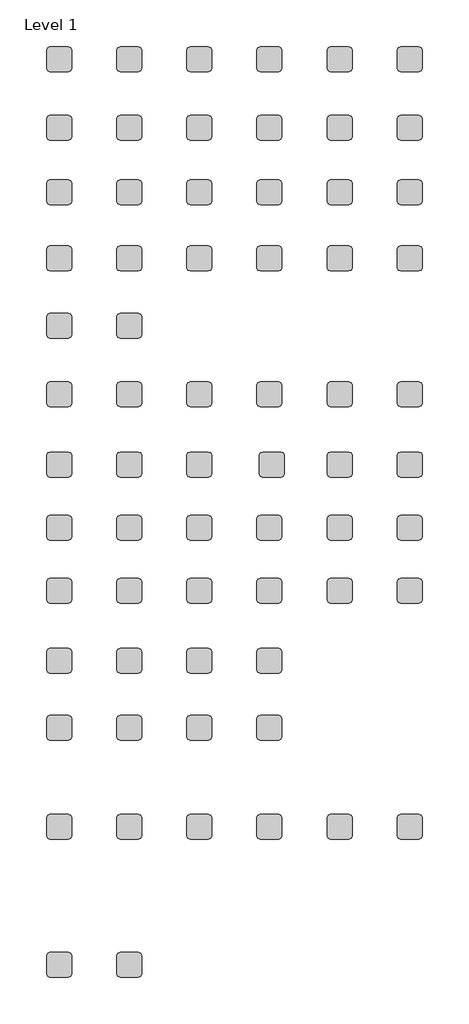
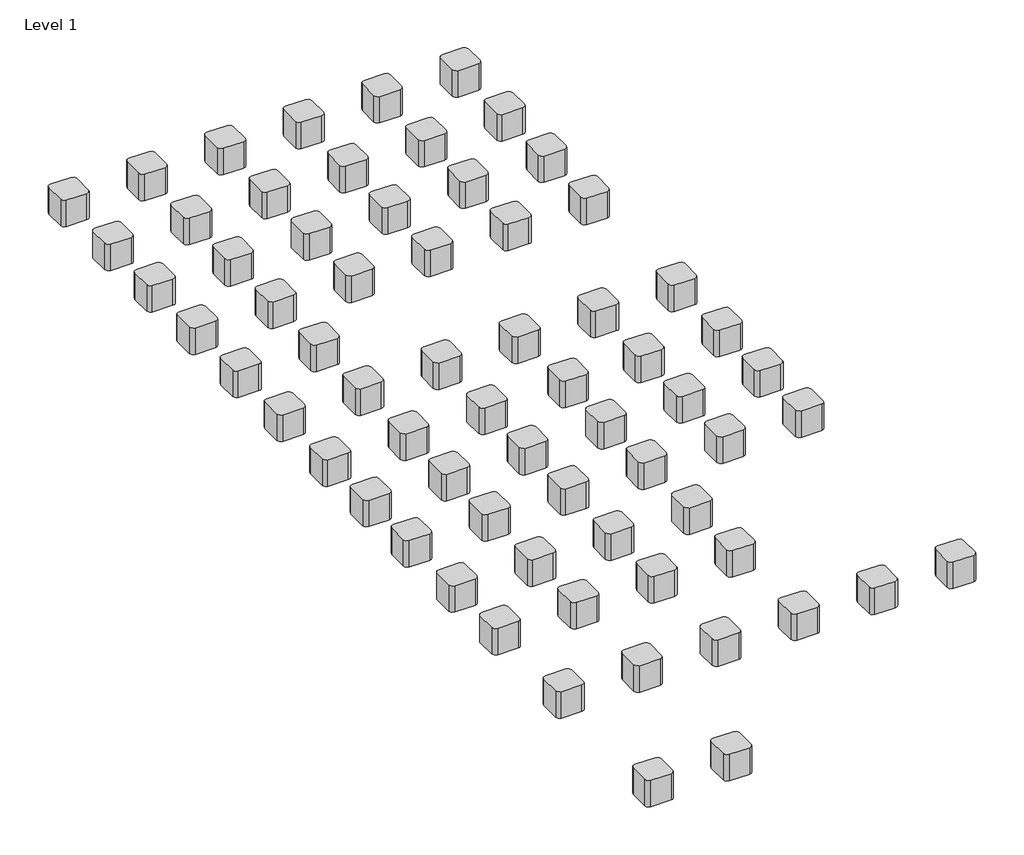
# One storey: 66 proxies.
"""IFC4 building model written with IfcOpenShell, lengths in millimetres."""

from ifc_helpers import new_model, si_unit, origin, place, context, project, spatial, transform, mapped, element, save
from components import material_cube_material_cube_d003602f

model = new_model("IFC4")

# Units and contexts
model_context = context("Model", 3, world=origin())
ifc_project = project(units=[si_unit("LENGTHUNIT", "METRE", prefix="MILLI")], contexts=[model_context])

# Site, building, storey
site = spatial("IfcSite", under=ifc_project)
building = spatial("IfcBuilding", under=site)
storey = spatial("IfcBuildingStorey", under=building, Name="Level 1", Elevation=0.0)

# Proxies
placement = place(None, origin())
material_cube_material_cube_shape = material_cube_material_cube_d003602f(model_context)
element("IfcBuildingElementProxy", 1, Name="Material Cube : Material Cube", ObjectType="Material Cube : Material Cube", at=placement, inside=storey, context=model_context, shape_type="MappedRepresentation", body=[
    mapped(material_cube_material_cube_shape, transform((-13627.1706411, 7005.4918403, 0.0), x_axis=(1.0, 0.0, 0.0), y_axis=(0.0, 1.0, 0.0), z_axis=(0.0, 0.0, 1.0))),
])
element("IfcBuildingElementProxy", 2, Name="Material Cube : Material Cube", ObjectType="Material Cube : Material Cube", at=placement, inside=storey, context=model_context, shape_type="MappedRepresentation", body=[
    mapped(material_cube_material_cube_shape, transform((-12558.7416718, 7005.4918403, 0.0), x_axis=(1.0, 0.0, 0.0), y_axis=(0.0, 1.0, 0.0), z_axis=(0.0, 0.0, 1.0))),
])
element("IfcBuildingElementProxy", 3, Name="Material Cube : Material Cube", ObjectType="Material Cube : Material Cube", at=placement, inside=storey, context=model_context, shape_type="MappedRepresentation", body=[
    mapped(material_cube_material_cube_shape, transform((-11490.3127025, 7005.4918403, 0.0), x_axis=(1.0, 0.0, 0.0), y_axis=(0.0, 1.0, 0.0), z_axis=(0.0, 0.0, 1.0))),
])
element("IfcBuildingElementProxy", 4, Name="Material Cube : Material Cube", ObjectType="Material Cube : Material Cube", at=placement, inside=storey, context=model_context, shape_type="MappedRepresentation", body=[
    mapped(material_cube_material_cube_shape, transform((-10421.8837331, 7005.4918403, 0.0), x_axis=(1.0, 0.0, 0.0), y_axis=(0.0, 1.0, 0.0), z_axis=(0.0, 0.0, 1.0))),
])
element("IfcBuildingElementProxy", 5, Name="Material Cube : Material Cube", ObjectType="Material Cube : Material Cube", at=placement, inside=storey, context=model_context, shape_type="MappedRepresentation", body=[
    mapped(material_cube_material_cube_shape, transform((-9353.4547638, 7005.4918403, 0.0), x_axis=(1.0, 0.0, 0.0), y_axis=(0.0, 1.0, 0.0), z_axis=(0.0, 0.0, 1.0))),
])
element("IfcBuildingElementProxy", 6, Name="Material Cube : Material Cube", ObjectType="Material Cube : Material Cube", at=placement, inside=storey, context=model_context, shape_type="MappedRepresentation", body=[
    mapped(material_cube_material_cube_shape, transform((-8285.0257944, 7005.4918403, 0.0), x_axis=(1.0, 0.0, 0.0), y_axis=(0.0, 1.0, 0.0), z_axis=(0.0, 0.0, 1.0))),
])
element("IfcBuildingElementProxy", 7, Name="Material Cube : Material Cube", ObjectType="Material Cube : Material Cube", at=placement, inside=storey, context=model_context, shape_type="MappedRepresentation", body=[
    mapped(material_cube_material_cube_shape, transform((-13627.1706411, 4973.4918403, 0.0), x_axis=(1.0, 0.0, 0.0), y_axis=(0.0, 1.0, 0.0), z_axis=(0.0, 0.0, 1.0))),
])
element("IfcBuildingElementProxy", 8, Name="Material Cube : Material Cube", ObjectType="Material Cube : Material Cube", at=placement, inside=storey, context=model_context, shape_type="MappedRepresentation", body=[
    mapped(material_cube_material_cube_shape, transform((-12558.7416718, 4973.4918403, 0.0), x_axis=(1.0, 0.0, 0.0), y_axis=(0.0, 1.0, 0.0), z_axis=(0.0, 0.0, 1.0))),
])
element("IfcBuildingElementProxy", 9, Name="Material Cube : Material Cube", ObjectType="Material Cube : Material Cube", at=placement, inside=storey, context=model_context, shape_type="MappedRepresentation", body=[
    mapped(material_cube_material_cube_shape, transform((-11490.3127025, 4973.4918403, 0.0), x_axis=(1.0, 0.0, 0.0), y_axis=(0.0, 1.0, 0.0), z_axis=(0.0, 0.0, 1.0))),
])
element("IfcBuildingElementProxy", 10, Name="Material Cube : Material Cube", ObjectType="Material Cube : Material Cube", at=placement, inside=storey, context=model_context, shape_type="MappedRepresentation", body=[
    mapped(material_cube_material_cube_shape, transform((-10421.8837331, 4973.4918403, 0.0), x_axis=(1.0, 0.0, 0.0), y_axis=(0.0, 1.0, 0.0), z_axis=(0.0, 0.0, 1.0))),
])
element("IfcBuildingElementProxy", 11, Name="Material Cube : Material Cube", ObjectType="Material Cube : Material Cube", at=placement, inside=storey, context=model_context, shape_type="MappedRepresentation", body=[
    mapped(material_cube_material_cube_shape, transform((-9353.4547638, 4973.4918403, 0.0), x_axis=(1.0, 0.0, 0.0), y_axis=(0.0, 1.0, 0.0), z_axis=(0.0, 0.0, 1.0))),
])
element("IfcBuildingElementProxy", 12, Name="Material Cube : Material Cube", ObjectType="Material Cube : Material Cube", at=placement, inside=storey, context=model_context, shape_type="MappedRepresentation", body=[
    mapped(material_cube_material_cube_shape, transform((-8285.0257944, 4973.4918403, 0.0), x_axis=(1.0, 0.0, 0.0), y_axis=(0.0, 1.0, 0.0), z_axis=(0.0, 0.0, 1.0))),
])
element("IfcBuildingElementProxy", 13, Name="Material Cube : Material Cube", ObjectType="Material Cube : Material Cube", at=placement, inside=storey, context=model_context, shape_type="MappedRepresentation", body=[
    mapped(material_cube_material_cube_shape, transform((-13627.1706411, 1900.0918403, 0.0), x_axis=(1.0, 0.0, 0.0), y_axis=(0.0, 1.0, 0.0), z_axis=(0.0, 0.0, 1.0))),
])
element("IfcBuildingElementProxy", 14, Name="Material Cube : Material Cube", ObjectType="Material Cube : Material Cube", at=placement, inside=storey, context=model_context, shape_type="MappedRepresentation", body=[
    mapped(material_cube_material_cube_shape, transform((-12558.7416718, 1900.0918403, 0.0), x_axis=(1.0, 0.0, 0.0), y_axis=(0.0, 1.0, 0.0), z_axis=(0.0, 0.0, 1.0))),
])
element("IfcBuildingElementProxy", 15, Name="Material Cube : Material Cube", ObjectType="Material Cube : Material Cube", at=placement, inside=storey, context=model_context, shape_type="MappedRepresentation", body=[
    mapped(material_cube_material_cube_shape, transform((-11490.3127025, 1900.0918403, 0.0), x_axis=(1.0, 0.0, 0.0), y_axis=(0.0, 1.0, 0.0), z_axis=(0.0, 0.0, 1.0))),
])
element("IfcBuildingElementProxy", 16, Name="Material Cube : Material Cube", ObjectType="Material Cube : Material Cube", at=placement, inside=storey, context=model_context, shape_type="MappedRepresentation", body=[
    mapped(material_cube_material_cube_shape, transform((-10421.8837331, 1900.0918403, 0.0), x_axis=(1.0, 0.0, 0.0), y_axis=(0.0, 1.0, 0.0), z_axis=(0.0, 0.0, 1.0))),
])
element("IfcBuildingElementProxy", 17, Name="Material Cube : Material Cube", ObjectType="Material Cube : Material Cube", at=placement, inside=storey, context=model_context, shape_type="MappedRepresentation", body=[
    mapped(material_cube_material_cube_shape, transform((-9353.4547638, 1900.0918403, 0.0), x_axis=(1.0, 0.0, 0.0), y_axis=(0.0, 1.0, 0.0), z_axis=(0.0, 0.0, 1.0))),
])
element("IfcBuildingElementProxy", 18, Name="Material Cube : Material Cube", ObjectType="Material Cube : Material Cube", at=placement, inside=storey, context=model_context, shape_type="MappedRepresentation", body=[
    mapped(material_cube_material_cube_shape, transform((-8285.0257944, 1900.0918403, 0.0), x_axis=(1.0, 0.0, 0.0), y_axis=(0.0, 1.0, 0.0), z_axis=(0.0, 0.0, 1.0))),
])
element("IfcBuildingElementProxy", 19, Name="Material Cube : Material Cube", ObjectType="Material Cube : Material Cube", at=placement, inside=storey, context=model_context, shape_type="MappedRepresentation", body=[
    mapped(material_cube_material_cube_shape, transform((-13627.1706411, -131.9081597, 0.0), x_axis=(1.0, 0.0, 0.0), y_axis=(0.0, 1.0, 0.0), z_axis=(0.0, 0.0, 1.0))),
])
element("IfcBuildingElementProxy", 20, Name="Material Cube : Material Cube", ObjectType="Material Cube : Material Cube", at=placement, inside=storey, context=model_context, shape_type="MappedRepresentation", body=[
    mapped(material_cube_material_cube_shape, transform((-11490.3127025, -131.9081597, 0.0), x_axis=(1.0, 0.0, 0.0), y_axis=(0.0, 1.0, 0.0), z_axis=(0.0, 0.0, 1.0))),
])
element("IfcBuildingElementProxy", 21, Name="Material Cube : Material Cube", ObjectType="Material Cube : Material Cube", at=placement, inside=storey, context=model_context, shape_type="MappedRepresentation", body=[
    mapped(material_cube_material_cube_shape, transform((-12558.7416718, -131.9081597, 0.0), x_axis=(1.0, 0.0, 0.0), y_axis=(0.0, 1.0, 0.0), z_axis=(0.0, 0.0, 1.0))),
])
element("IfcBuildingElementProxy", 22, Name="Material Cube : Material Cube", ObjectType="Material Cube : Material Cube", at=placement, inside=storey, context=model_context, shape_type="MappedRepresentation", body=[
    mapped(material_cube_material_cube_shape, transform((-10421.8837331, -131.9081597, 0.0), x_axis=(1.0, 0.0, 0.0), y_axis=(0.0, 1.0, 0.0), z_axis=(0.0, 0.0, 1.0))),
])
element("IfcBuildingElementProxy", 23, Name="Material Cube : Material Cube", ObjectType="Material Cube : Material Cube", at=placement, inside=storey, context=model_context, shape_type="MappedRepresentation", body=[
    mapped(material_cube_material_cube_shape, transform((-9353.4547638, -131.9081597, 0.0), x_axis=(1.0, 0.0, 0.0), y_axis=(0.0, 1.0, 0.0), z_axis=(0.0, 0.0, 1.0))),
])
element("IfcBuildingElementProxy", 24, Name="Material Cube : Material Cube", ObjectType="Material Cube : Material Cube", at=placement, inside=storey, context=model_context, shape_type="MappedRepresentation", body=[
    mapped(material_cube_material_cube_shape, transform((-8285.0257944, -131.9081597, 0.0), x_axis=(1.0, 0.0, 0.0), y_axis=(0.0, 1.0, 0.0), z_axis=(0.0, 0.0, 1.0))),
])
element("IfcBuildingElementProxy", 25, Name="Material Cube : Material Cube", ObjectType="Material Cube : Material Cube", at=placement, inside=storey, context=model_context, shape_type="MappedRepresentation", body=[
    mapped(material_cube_material_cube_shape, transform((-13627.1706411, 2941.4918403, 0.0), x_axis=(1.0, 0.0, 0.0), y_axis=(0.0, 1.0, 0.0), z_axis=(0.0, 0.0, 1.0))),
])
element("IfcBuildingElementProxy", 26, Name="Material Cube : Material Cube", ObjectType="Material Cube : Material Cube", at=placement, inside=storey, context=model_context, shape_type="MappedRepresentation", body=[
    mapped(material_cube_material_cube_shape, transform((-12558.7416718, 2941.4918403, 0.0), x_axis=(1.0, 0.0, 0.0), y_axis=(0.0, 1.0, 0.0), z_axis=(0.0, 0.0, 1.0))),
])
element("IfcBuildingElementProxy", 27, Name="Material Cube : Material Cube", ObjectType="Material Cube : Material Cube", at=placement, inside=storey, context=model_context, shape_type="MappedRepresentation", body=[
    mapped(material_cube_material_cube_shape, transform((-13627.1706411, -2163.9081597, 0.0), x_axis=(1.0, 0.0, 0.0), y_axis=(0.0, 1.0, 0.0), z_axis=(0.0, 0.0, 1.0))),
])
element("IfcBuildingElementProxy", 28, Name="Material Cube : Material Cube", ObjectType="Material Cube : Material Cube", at=placement, inside=storey, context=model_context, shape_type="MappedRepresentation", body=[
    mapped(material_cube_material_cube_shape, transform((-12558.7416718, -2163.9081597, 0.0), x_axis=(1.0, 0.0, 0.0), y_axis=(0.0, 1.0, 0.0), z_axis=(0.0, 0.0, 1.0))),
])
element("IfcBuildingElementProxy", 29, Name="Material Cube : Material Cube", ObjectType="Material Cube : Material Cube", at=placement, inside=storey, context=model_context, shape_type="MappedRepresentation", body=[
    mapped(material_cube_material_cube_shape, transform((-11490.3127025, -2163.9081597, 0.0), x_axis=(1.0, 0.0, 0.0), y_axis=(0.0, 1.0, 0.0), z_axis=(0.0, 0.0, 1.0))),
])
element("IfcBuildingElementProxy", 30, Name="Material Cube : Material Cube", ObjectType="Material Cube : Material Cube", at=placement, inside=storey, context=model_context, shape_type="MappedRepresentation", body=[
    mapped(material_cube_material_cube_shape, transform((-10421.8837331, -2163.9081597, 0.0), x_axis=(1.0, 0.0, 0.0), y_axis=(0.0, 1.0, 0.0), z_axis=(0.0, 0.0, 1.0))),
])
element("IfcBuildingElementProxy", 31, Name="Material Cube : Material Cube", ObjectType="Material Cube : Material Cube", at=placement, inside=storey, context=model_context, shape_type="MappedRepresentation", body=[
    mapped(material_cube_material_cube_shape, transform((-13627.1706411, -3179.9081597, 0.0), x_axis=(1.0, 0.0, 0.0), y_axis=(0.0, 1.0, 0.0), z_axis=(0.0, 0.0, 1.0))),
])
element("IfcBuildingElementProxy", 32, Name="Material Cube : Material Cube", ObjectType="Material Cube : Material Cube", at=placement, inside=storey, context=model_context, shape_type="MappedRepresentation", body=[
    mapped(material_cube_material_cube_shape, transform((-12558.7416718, -3179.9081597, 0.0), x_axis=(1.0, 0.0, 0.0), y_axis=(0.0, 1.0, 0.0), z_axis=(0.0, 0.0, 1.0))),
])
element("IfcBuildingElementProxy", 33, Name="Material Cube : Material Cube", ObjectType="Material Cube : Material Cube", at=placement, inside=storey, context=model_context, shape_type="MappedRepresentation", body=[
    mapped(material_cube_material_cube_shape, transform((-11490.3127025, -3179.9081597, 0.0), x_axis=(1.0, 0.0, 0.0), y_axis=(0.0, 1.0, 0.0), z_axis=(0.0, 0.0, 1.0))),
])
element("IfcBuildingElementProxy", 34, Name="Material Cube : Material Cube", ObjectType="Material Cube : Material Cube", at=placement, inside=storey, context=model_context, shape_type="MappedRepresentation", body=[
    mapped(material_cube_material_cube_shape, transform((-10421.8837331, -3179.9081597, 0.0), x_axis=(1.0, 0.0, 0.0), y_axis=(0.0, 1.0, 0.0), z_axis=(0.0, 0.0, 1.0))),
])
element("IfcBuildingElementProxy", 35, Name="Material Cube : Material Cube", ObjectType="Material Cube : Material Cube", at=placement, inside=storey, context=model_context, shape_type="MappedRepresentation", body=[
    mapped(material_cube_material_cube_shape, transform((-13627.1706411, 828.3582102, 0.0), x_axis=(1.0, 0.0, 0.0), y_axis=(0.0, 1.0, 0.0), z_axis=(0.0, 0.0, 1.0))),
])
element("IfcBuildingElementProxy", 36, Name="Material Cube : Material Cube", ObjectType="Material Cube : Material Cube", at=placement, inside=storey, context=model_context, shape_type="MappedRepresentation", body=[
    mapped(material_cube_material_cube_shape, transform((-12558.7416718, 828.3582102, 0.0), x_axis=(1.0, 0.0, 0.0), y_axis=(0.0, 1.0, 0.0), z_axis=(0.0, 0.0, 1.0))),
])
element("IfcBuildingElementProxy", 37, Name="Material Cube : Material Cube", ObjectType="Material Cube : Material Cube", at=placement, inside=storey, context=model_context, shape_type="MappedRepresentation", body=[
    mapped(material_cube_material_cube_shape, transform((-11490.3127025, 828.3582102, 0.0), x_axis=(1.0, 0.0, 0.0), y_axis=(0.0, 1.0, 0.0), z_axis=(0.0, 0.0, 1.0))),
])
element("IfcBuildingElementProxy", 38, Name="Material Cube : Material Cube", ObjectType="Material Cube : Material Cube", at=placement, inside=storey, context=model_context, shape_type="MappedRepresentation", body=[
    mapped(material_cube_material_cube_shape, transform((-10384.1043899, 828.3582102, 0.0), x_axis=(1.0, 0.0, 0.0), y_axis=(0.0, 1.0, 0.0), z_axis=(0.0, 0.0, 1.0))),
])
element("IfcBuildingElementProxy", 39, Name="Material Cube : Material Cube", ObjectType="Material Cube : Material Cube", at=placement, inside=storey, context=model_context, shape_type="MappedRepresentation", body=[
    mapped(material_cube_material_cube_shape, transform((-9353.4547638, 828.3582102, 0.0), x_axis=(1.0, 0.0, 0.0), y_axis=(0.0, 1.0, 0.0), z_axis=(0.0, 0.0, 1.0))),
])
element("IfcBuildingElementProxy", 40, Name="Material Cube : Material Cube", ObjectType="Material Cube : Material Cube", at=placement, inside=storey, context=model_context, shape_type="MappedRepresentation", body=[
    mapped(material_cube_material_cube_shape, transform((-13627.1706411, -1091.8963945, 0.0), x_axis=(1.0, 0.0, 0.0), y_axis=(0.0, 1.0, 0.0), z_axis=(0.0, 0.0, 1.0))),
])
element("IfcBuildingElementProxy", 41, Name="Material Cube : Material Cube", ObjectType="Material Cube : Material Cube", at=placement, inside=storey, context=model_context, shape_type="MappedRepresentation", body=[
    mapped(material_cube_material_cube_shape, transform((-8285.0257944, 828.3582102, 0.0), x_axis=(1.0, 0.0, 0.0), y_axis=(0.0, 1.0, 0.0), z_axis=(0.0, 0.0, 1.0))),
])
element("IfcBuildingElementProxy", 42, Name="Material Cube : Material Cube", ObjectType="Material Cube : Material Cube", at=placement, inside=storey, context=model_context, shape_type="MappedRepresentation", body=[
    mapped(material_cube_material_cube_shape, transform((-12558.7416718, -1091.8963945, 0.0), x_axis=(1.0, 0.0, 0.0), y_axis=(0.0, 1.0, 0.0), z_axis=(0.0, 0.0, 1.0))),
])
element("IfcBuildingElementProxy", 43, Name="Material Cube : Material Cube", ObjectType="Material Cube : Material Cube", at=placement, inside=storey, context=model_context, shape_type="MappedRepresentation", body=[
    mapped(material_cube_material_cube_shape, transform((-11490.3127025, -1091.8963945, 0.0), x_axis=(1.0, 0.0, 0.0), y_axis=(0.0, 1.0, 0.0), z_axis=(0.0, 0.0, 1.0))),
])
element("IfcBuildingElementProxy", 44, Name="Material Cube : Material Cube", ObjectType="Material Cube : Material Cube", at=placement, inside=storey, context=model_context, shape_type="MappedRepresentation", body=[
    mapped(material_cube_material_cube_shape, transform((-10421.8837331, -1091.8963945, 0.0), x_axis=(1.0, 0.0, 0.0), y_axis=(0.0, 1.0, 0.0), z_axis=(0.0, 0.0, 1.0))),
])
element("IfcBuildingElementProxy", 45, Name="Material Cube : Material Cube", ObjectType="Material Cube : Material Cube", at=placement, inside=storey, context=model_context, shape_type="MappedRepresentation", body=[
    mapped(material_cube_material_cube_shape, transform((-9353.4547638, -1091.8963945, 0.0), x_axis=(1.0, 0.0, 0.0), y_axis=(0.0, 1.0, 0.0), z_axis=(0.0, 0.0, 1.0))),
])
element("IfcBuildingElementProxy", 46, Name="Material Cube : Material Cube", ObjectType="Material Cube : Material Cube", at=placement, inside=storey, context=model_context, shape_type="MappedRepresentation", body=[
    mapped(material_cube_material_cube_shape, transform((-8285.0257944, -1091.8963945, 0.0), x_axis=(1.0, 0.0, 0.0), y_axis=(0.0, 1.0, 0.0), z_axis=(0.0, 0.0, 1.0))),
])
element("IfcBuildingElementProxy", 47, Name="Material Cube : Material Cube", ObjectType="Material Cube : Material Cube", at=placement, inside=storey, context=model_context, shape_type="MappedRepresentation", body=[
    mapped(material_cube_material_cube_shape, transform((-13627.1706411, 5959.5844979, 0.0), x_axis=(1.0, 0.0, 0.0), y_axis=(0.0, 1.0, 0.0), z_axis=(0.0, 0.0, 1.0))),
])
element("IfcBuildingElementProxy", 48, Name="Material Cube : Material Cube", ObjectType="Material Cube : Material Cube", at=placement, inside=storey, context=model_context, shape_type="MappedRepresentation", body=[
    mapped(material_cube_material_cube_shape, transform((-12558.7416718, 5959.5844979, 0.0), x_axis=(1.0, 0.0, 0.0), y_axis=(0.0, 1.0, 0.0), z_axis=(0.0, 0.0, 1.0))),
])
element("IfcBuildingElementProxy", 49, Name="Material Cube : Material Cube", ObjectType="Material Cube : Material Cube", at=placement, inside=storey, context=model_context, shape_type="MappedRepresentation", body=[
    mapped(material_cube_material_cube_shape, transform((-11490.3127025, 5959.5844979, 0.0), x_axis=(1.0, 0.0, 0.0), y_axis=(0.0, 1.0, 0.0), z_axis=(0.0, 0.0, 1.0))),
])
element("IfcBuildingElementProxy", 50, Name="Material Cube : Material Cube", ObjectType="Material Cube : Material Cube", at=placement, inside=storey, context=model_context, shape_type="MappedRepresentation", body=[
    mapped(material_cube_material_cube_shape, transform((-10421.8837331, 5959.5844979, 0.0), x_axis=(1.0, 0.0, 0.0), y_axis=(0.0, 1.0, 0.0), z_axis=(0.0, 0.0, 1.0))),
])
element("IfcBuildingElementProxy", 51, Name="Material Cube : Material Cube", ObjectType="Material Cube : Material Cube", at=placement, inside=storey, context=model_context, shape_type="MappedRepresentation", body=[
    mapped(material_cube_material_cube_shape, transform((-9353.4547638, 5959.5844979, 0.0), x_axis=(1.0, 0.0, 0.0), y_axis=(0.0, 1.0, 0.0), z_axis=(0.0, 0.0, 1.0))),
])
element("IfcBuildingElementProxy", 52, Name="Material Cube : Material Cube", ObjectType="Material Cube : Material Cube", at=placement, inside=storey, context=model_context, shape_type="MappedRepresentation", body=[
    mapped(material_cube_material_cube_shape, transform((-8285.0257944, 5959.5844979, 0.0), x_axis=(1.0, 0.0, 0.0), y_axis=(0.0, 1.0, 0.0), z_axis=(0.0, 0.0, 1.0))),
])
element("IfcBuildingElementProxy", 53, Name="Material Cube : Material Cube", ObjectType="Material Cube : Material Cube", at=placement, inside=storey, context=model_context, shape_type="MappedRepresentation", body=[
    mapped(material_cube_material_cube_shape, transform((-13627.1706411, 3967.1717626, 0.0), x_axis=(1.0, 0.0, 0.0), y_axis=(0.0, 1.0, 0.0), z_axis=(0.0, 0.0, 1.0))),
])
element("IfcBuildingElementProxy", 54, Name="Material Cube : Material Cube", ObjectType="Material Cube : Material Cube", at=placement, inside=storey, context=model_context, shape_type="MappedRepresentation", body=[
    mapped(material_cube_material_cube_shape, transform((-12558.7416718, 3967.1717626, 0.0), x_axis=(1.0, 0.0, 0.0), y_axis=(0.0, 1.0, 0.0), z_axis=(0.0, 0.0, 1.0))),
])
element("IfcBuildingElementProxy", 55, Name="Material Cube : Material Cube", ObjectType="Material Cube : Material Cube", at=placement, inside=storey, context=model_context, shape_type="MappedRepresentation", body=[
    mapped(material_cube_material_cube_shape, transform((-11490.3127025, 3967.1717626, 0.0), x_axis=(1.0, 0.0, 0.0), y_axis=(0.0, 1.0, 0.0), z_axis=(0.0, 0.0, 1.0))),
])
element("IfcBuildingElementProxy", 56, Name="Material Cube : Material Cube", ObjectType="Material Cube : Material Cube", at=placement, inside=storey, context=model_context, shape_type="MappedRepresentation", body=[
    mapped(material_cube_material_cube_shape, transform((-10421.8837331, 3967.1717626, 0.0), x_axis=(1.0, 0.0, 0.0), y_axis=(0.0, 1.0, 0.0), z_axis=(0.0, 0.0, 1.0))),
])
element("IfcBuildingElementProxy", 57, Name="Material Cube : Material Cube", ObjectType="Material Cube : Material Cube", at=placement, inside=storey, context=model_context, shape_type="MappedRepresentation", body=[
    mapped(material_cube_material_cube_shape, transform((-9353.4547638, 3967.1717626, 0.0), x_axis=(1.0, 0.0, 0.0), y_axis=(0.0, 1.0, 0.0), z_axis=(0.0, 0.0, 1.0))),
])
element("IfcBuildingElementProxy", 58, Name="Material Cube : Material Cube", ObjectType="Material Cube : Material Cube", at=placement, inside=storey, context=model_context, shape_type="MappedRepresentation", body=[
    mapped(material_cube_material_cube_shape, transform((-8285.0257944, 3967.1717626, 0.0), x_axis=(1.0, 0.0, 0.0), y_axis=(0.0, 1.0, 0.0), z_axis=(0.0, 0.0, 1.0))),
])
element("IfcBuildingElementProxy", 59, Name="Material Cube : Material Cube", ObjectType="Material Cube : Material Cube", at=placement, inside=storey, context=model_context, shape_type="MappedRepresentation", body=[
    mapped(material_cube_material_cube_shape, transform((-13627.1706411, -6795.1806329, 0.0), x_axis=(1.0, 0.0, 0.0), y_axis=(0.0, 1.0, 0.0), z_axis=(0.0, 0.0, 1.0))),
])
element("IfcBuildingElementProxy", 60, Name="Material Cube : Material Cube", ObjectType="Material Cube : Material Cube", at=placement, inside=storey, context=model_context, shape_type="MappedRepresentation", body=[
    mapped(material_cube_material_cube_shape, transform((-12558.7416718, -6795.1806329, 0.0), x_axis=(1.0, 0.0, 0.0), y_axis=(0.0, 1.0, 0.0), z_axis=(0.0, 0.0, 1.0))),
])
element("IfcBuildingElementProxy", 61, Name="Material Cube : Material Cube", ObjectType="Material Cube : Material Cube", at=placement, inside=storey, context=model_context, shape_type="MappedRepresentation", body=[
    mapped(material_cube_material_cube_shape, transform((-13627.1706411, -4686.9806329, 0.0), x_axis=(1.0, 0.0, 0.0), y_axis=(0.0, 1.0, 0.0), z_axis=(0.0, 0.0, 1.0))),
])
element("IfcBuildingElementProxy", 62, Name="Material Cube : Material Cube", ObjectType="Material Cube : Material Cube", at=placement, inside=storey, context=model_context, shape_type="MappedRepresentation", body=[
    mapped(material_cube_material_cube_shape, transform((-12558.7416718, -4686.9806329, 0.0), x_axis=(1.0, 0.0, 0.0), y_axis=(0.0, 1.0, 0.0), z_axis=(0.0, 0.0, 1.0))),
])
element("IfcBuildingElementProxy", 63, Name="Material Cube : Material Cube", ObjectType="Material Cube : Material Cube", at=placement, inside=storey, context=model_context, shape_type="MappedRepresentation", body=[
    mapped(material_cube_material_cube_shape, transform((-11490.3127025, -4686.9806329, 0.0), x_axis=(1.0, 0.0, 0.0), y_axis=(0.0, 1.0, 0.0), z_axis=(0.0, 0.0, 1.0))),
])
element("IfcBuildingElementProxy", 64, Name="Material Cube : Material Cube", ObjectType="Material Cube : Material Cube", at=placement, inside=storey, context=model_context, shape_type="MappedRepresentation", body=[
    mapped(material_cube_material_cube_shape, transform((-10421.8837331, -4686.9806329, 0.0), x_axis=(1.0, 0.0, 0.0), y_axis=(0.0, 1.0, 0.0), z_axis=(0.0, 0.0, 1.0))),
])
element("IfcBuildingElementProxy", 65, Name="Material Cube : Material Cube", ObjectType="Material Cube : Material Cube", at=placement, inside=storey, context=model_context, shape_type="MappedRepresentation", body=[
    mapped(material_cube_material_cube_shape, transform((-9353.4547638, -4686.9806329, 0.0), x_axis=(1.0, 0.0, 0.0), y_axis=(0.0, 1.0, 0.0), z_axis=(0.0, 0.0, 1.0))),
])
element("IfcBuildingElementProxy", 66, Name="Material Cube : Material Cube", ObjectType="Material Cube : Material Cube", at=placement, inside=storey, context=model_context, shape_type="MappedRepresentation", body=[
    mapped(material_cube_material_cube_shape, transform((-8285.0257944, -4686.9806329, 0.0), x_axis=(1.0, 0.0, 0.0), y_axis=(0.0, 1.0, 0.0), z_axis=(0.0, 0.0, 1.0))),
])

save(model, "model.ifc")
